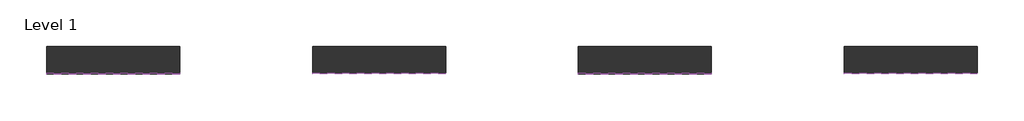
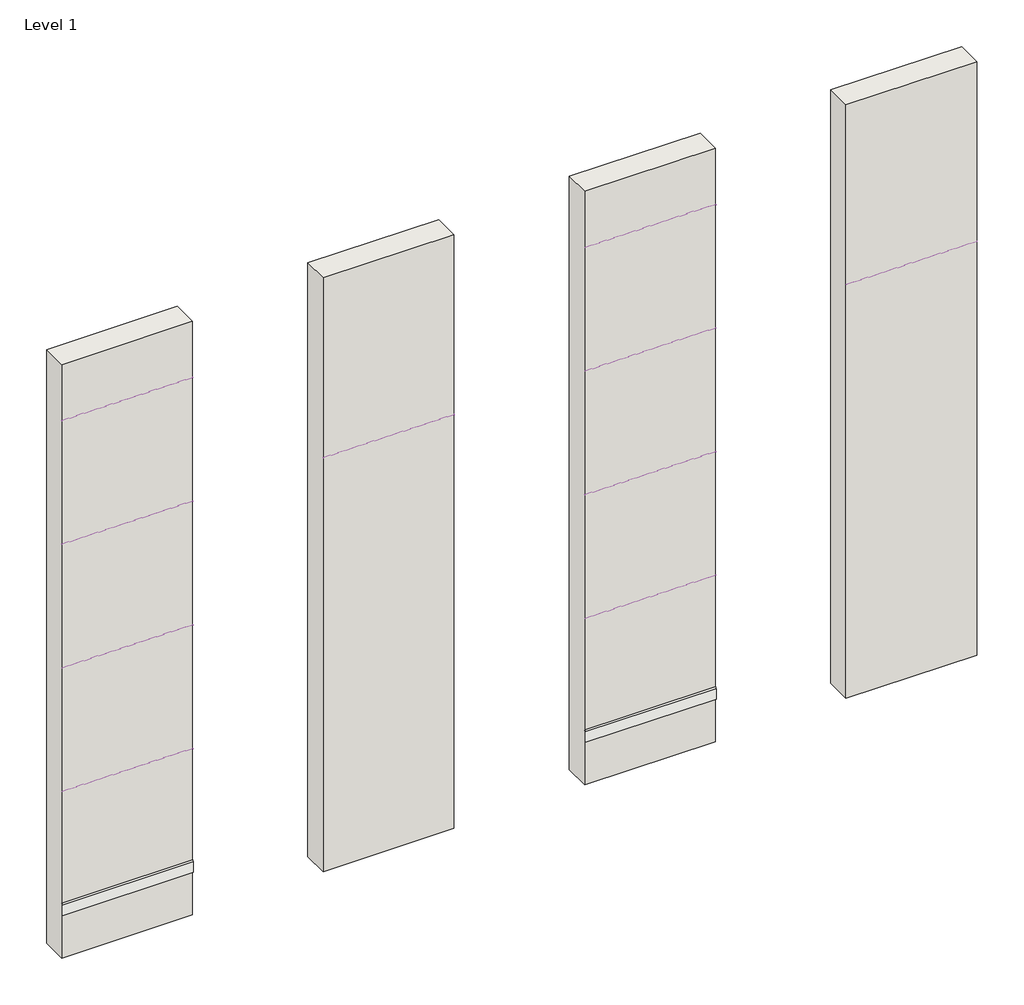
# One storey: 12 coverings, 4 walls.
"""IFC4 building model written with IfcOpenShell, lengths in millimetres."""

from ifc_helpers import new_model, si_unit, point, frame, frame_2d, origin, origin_with_axes, place, context, project, spatial, polyline, circle_curve, trimmed, segment, composite_curve, outline, extrude, element, save

model = new_model("IFC4")

# Units and contexts
model_context = context("Model", 3, world=origin())
ifc_project = project(units=[si_unit("LENGTHUNIT", "METRE", prefix="MILLI")], contexts=[model_context])

# Site, building, storey
site = spatial("IfcSite", under=ifc_project)
building = spatial("IfcBuilding", under=site)
storey = spatial("IfcBuildingStorey", under=building, Name="Level 1", Elevation=0.0)

# Coverings
placement = place(None, origin())
element("IfcCovering", 1, ObjectType="REVIGRES-LIMESTONE-RB-8x59.2-RECT-MIST", at=placement, inside=storey, context=model_context, shape_type="SweptSolid", body=[
    extrude(outline(composite_curve([segment(polyline([(-7003.9029573, 3350.0), (-7013.7029573, 3350.0), (-7013.7029573, 3420.2)]), True, "CONTINUOUS"), segment(trimmed(circle_curve(frame_2d((-7003.9029573, 3420.2)), 9.8), [point((-7013.7029573, 3420.2))], [point((-7003.9029573, 3430.0))], False, "CARTESIAN"), True, "CONTINUOUS"), segment(polyline([(-7003.9029573, 3430.0), (-7003.9029573, 3350.0)]), True, "CONTINUOUS")], self_intersect=False)), frame((5606.4744288, 0.0, 0.0), z_axis=(1.0, 0.0, 0.0), x_axis=(0.0, 1.0, 0.0)), (0.0, 0.0, 1.0), 1000.0),
])
element("IfcCovering", 2, ObjectType="REVIGRES-LIMESTONE-RB-8x88.9-RECT-MIST", at=placement, inside=storey, context=model_context, shape_type="SweptSolid", body=[
    extrude(outline(composite_curve([segment(polyline([(-7003.9029573, 2350.0), (-7014.4029573, 2350.0), (-7014.4029573, 2419.5)]), True, "CONTINUOUS"), segment(trimmed(circle_curve(frame_2d((-7003.9029573, 2419.5)), 10.5), [point((-7014.4029573, 2419.5))], [point((-7003.9029573, 2430.0))], False, "CARTESIAN"), True, "CONTINUOUS"), segment(polyline([(-7003.9029573, 2430.0), (-7003.9029573, 2350.0)]), True, "CONTINUOUS")], self_intersect=False)), frame((5606.4744288, 0.0, 0.0), z_axis=(1.0, 0.0, 0.0), x_axis=(0.0, 1.0, 0.0)), (0.0, 0.0, 1.0), 1000.0),
])
element("IfcCovering", 3, ObjectType="REVIGRES-LIMESTONE-RB-8x118.6-RECT-MIST", at=placement, inside=storey, context=model_context, shape_type="SweptSolid", body=[
    extrude(outline(composite_curve([segment(polyline([(-7003.9029573, 1350.0), (-7013.7029573, 1350.0), (-7013.7029573, 1420.2)]), True, "CONTINUOUS"), segment(trimmed(circle_curve(frame_2d((-7003.9029573, 1420.2)), 9.8), [point((-7013.7029573, 1420.2))], [point((-7003.9029573, 1430.0))], False, "CARTESIAN"), True, "CONTINUOUS"), segment(polyline([(-7003.9029573, 1430.0), (-7003.9029573, 1350.0)]), True, "CONTINUOUS")], self_intersect=False)), frame((5606.4744288, 0.0, 0.0), z_axis=(1.0, 0.0, 0.0), x_axis=(0.0, 1.0, 0.0)), (0.0, 0.0, 1.0), 1000.0),
])
element("IfcCovering", 4, ObjectType="REVIGRES-LIMESTONE-RB-9.5x29.5-RECT-MIST", at=placement, inside=storey, context=model_context, shape_type="SweptSolid", body=[
    extrude(outline(composite_curve([segment(polyline([(-7003.9029573, 350.0), (-7013.7029573, 350.0), (-7013.7029573, 435.2)]), True, "CONTINUOUS"), segment(trimmed(circle_curve(frame_2d((-7003.9029573, 435.2)), 9.8), [point((-7013.7029573, 435.2))], [point((-7003.9029573, 445.0))], False, "CARTESIAN"), True, "CONTINUOUS"), segment(polyline([(-7003.9029573, 445.0), (-7003.9029573, 350.0)]), True, "CONTINUOUS")], self_intersect=False)), frame((5606.4744288, 0.0, 0.0), z_axis=(1.0, 0.0, 0.0), x_axis=(0.0, 1.0, 0.0)), (0.0, 0.0, 1.0), 1000.0),
])
element("IfcCovering", 5, ObjectType="REVIGRES-LIMESTONE-RB-8x59.2-ANTISLIP RECT-MIST", at=placement, inside=storey, context=model_context, shape_type="SweptSolid", body=[
    extrude(outline(composite_curve([segment(polyline([(-7003.9029573, 3350.0), (-7013.7029573, 3350.0), (-7013.7029573, 3420.2)]), True, "CONTINUOUS"), segment(trimmed(circle_curve(frame_2d((-7003.9029573, 3420.2)), 9.8), [point((-7013.7029573, 3420.2))], [point((-7003.9029573, 3430.0))], False, "CARTESIAN"), True, "CONTINUOUS"), segment(polyline([(-7003.9029573, 3430.0), (-7003.9029573, 3350.0)]), True, "CONTINUOUS")], self_intersect=False)), frame((7606.4744288, 0.0, 0.0), z_axis=(1.0, 0.0, 0.0), x_axis=(0.0, 1.0, 0.0)), (0.0, 0.0, 1.0), 1000.0),
])
element("IfcCovering", 6, ObjectType="REVIGRES-LIMESTONE-RB-8x44.35-RECT-MIST", at=placement, inside=storey, context=model_context, shape_type="SweptSolid", body=[
    extrude(outline(composite_curve([segment(polyline([(-7003.9029573, 4350.0), (-7014.4029573, 4350.0), (-7014.4029573, 4419.5)]), True, "CONTINUOUS"), segment(trimmed(circle_curve(frame_2d((-7003.9029573, 4419.5)), 10.5), [point((-7014.4029573, 4419.5))], [point((-7003.9029573, 4430.0))], False, "CARTESIAN"), True, "CONTINUOUS"), segment(polyline([(-7003.9029573, 4430.0), (-7003.9029573, 4350.0)]), True, "CONTINUOUS")], self_intersect=False)), frame((5606.4744288, 0.0, 0.0), z_axis=(1.0, 0.0, 0.0), x_axis=(0.0, 1.0, 0.0)), (0.0, 0.0, 1.0), 1000.0),
])
element("IfcCovering", 7, ObjectType="REVIGRES-LIMESTONE-RB-8x59.2-RECT-SAND", at=placement, inside=storey, context=model_context, shape_type="SweptSolid", body=[
    extrude(outline(composite_curve([segment(polyline([(-7003.9029573, 3350.0), (-7013.7029573, 3350.0), (-7013.7029573, 3420.2)]), True, "CONTINUOUS"), segment(trimmed(circle_curve(frame_2d((-7003.9029573, 3420.2)), 9.8), [point((-7013.7029573, 3420.2))], [point((-7003.9029573, 3430.0))], False, "CARTESIAN"), True, "CONTINUOUS"), segment(polyline([(-7003.9029573, 3430.0), (-7003.9029573, 3350.0)]), True, "CONTINUOUS")], self_intersect=False)), frame((9606.4744288, 0.0, 0.0), z_axis=(1.0, 0.0, 0.0), x_axis=(0.0, 1.0, 0.0)), (0.0, 0.0, 1.0), 1000.0),
])
element("IfcCovering", 8, ObjectType="REVIGRES-LIMESTONE-RB-8x88.90-RECT-SAND", at=placement, inside=storey, context=model_context, shape_type="SweptSolid", body=[
    extrude(outline(composite_curve([segment(polyline([(-7003.9029573, 2350.0), (-7014.4029573, 2350.0), (-7014.4029573, 2419.5)]), True, "CONTINUOUS"), segment(trimmed(circle_curve(frame_2d((-7003.9029573, 2419.5)), 10.5), [point((-7014.4029573, 2419.5))], [point((-7003.9029573, 2430.0))], False, "CARTESIAN"), True, "CONTINUOUS"), segment(polyline([(-7003.9029573, 2430.0), (-7003.9029573, 2350.0)]), True, "CONTINUOUS")], self_intersect=False)), frame((9606.4744288, 0.0, 0.0), z_axis=(1.0, 0.0, 0.0), x_axis=(0.0, 1.0, 0.0)), (0.0, 0.0, 1.0), 1000.0),
])
element("IfcCovering", 9, ObjectType="REVIGRES-LIMESTONE-RB-8x118.6-RECT-SAND", at=placement, inside=storey, context=model_context, shape_type="SweptSolid", body=[
    extrude(outline(composite_curve([segment(polyline([(-7003.9029573, 1350.0), (-7013.7029573, 1350.0), (-7013.7029573, 1420.2)]), True, "CONTINUOUS"), segment(trimmed(circle_curve(frame_2d((-7003.9029573, 1420.2)), 9.8), [point((-7013.7029573, 1420.2))], [point((-7003.9029573, 1430.0))], False, "CARTESIAN"), True, "CONTINUOUS"), segment(polyline([(-7003.9029573, 1430.0), (-7003.9029573, 1350.0)]), True, "CONTINUOUS")], self_intersect=False)), frame((9606.4744288, 0.0, 0.0), z_axis=(1.0, 0.0, 0.0), x_axis=(0.0, 1.0, 0.0)), (0.0, 0.0, 1.0), 1000.0),
])
element("IfcCovering", 10, ObjectType="REVIGRES-LIMESTONE-RB-9.5x29.5-RECT-SAND", at=placement, inside=storey, context=model_context, shape_type="SweptSolid", body=[
    extrude(outline(composite_curve([segment(polyline([(-7003.9029573, 350.0), (-7013.7029573, 350.0), (-7013.7029573, 435.2)]), True, "CONTINUOUS"), segment(trimmed(circle_curve(frame_2d((-7003.9029573, 435.2)), 9.8), [point((-7013.7029573, 435.2))], [point((-7003.9029573, 445.0))], False, "CARTESIAN"), True, "CONTINUOUS"), segment(polyline([(-7003.9029573, 445.0), (-7003.9029573, 350.0)]), True, "CONTINUOUS")], self_intersect=False)), frame((9606.4744288, 0.0, 0.0), z_axis=(1.0, 0.0, 0.0), x_axis=(0.0, 1.0, 0.0)), (0.0, 0.0, 1.0), 1000.0),
])
element("IfcCovering", 11, ObjectType="REVIGRES-LIMESTONE-RB-8x44.35-RECT-SAND", at=placement, inside=storey, context=model_context, shape_type="SweptSolid", body=[
    extrude(outline(composite_curve([segment(polyline([(-7003.9029573, 4350.0), (-7014.4029573, 4350.0), (-7014.4029573, 4419.5)]), True, "CONTINUOUS"), segment(trimmed(circle_curve(frame_2d((-7003.9029573, 4419.5)), 10.5), [point((-7014.4029573, 4419.5))], [point((-7003.9029573, 4430.0))], False, "CARTESIAN"), True, "CONTINUOUS"), segment(polyline([(-7003.9029573, 4430.0), (-7003.9029573, 4350.0)]), True, "CONTINUOUS")], self_intersect=False)), frame((9606.4744288, 0.0, 0.0), z_axis=(1.0, 0.0, 0.0), x_axis=(0.0, 1.0, 0.0)), (0.0, 0.0, 1.0), 1000.0),
])
element("IfcCovering", 12, ObjectType="REVIGRES-LIMESTONE-RB-8x59.2-ANTISLIP RECT-SAND", at=placement, inside=storey, context=model_context, shape_type="SweptSolid", body=[
    extrude(outline(composite_curve([segment(polyline([(-7003.9029573, 3350.0), (-7013.7029573, 3350.0), (-7013.7029573, 3420.2)]), True, "CONTINUOUS"), segment(trimmed(circle_curve(frame_2d((-7003.9029573, 3420.2)), 9.8), [point((-7013.7029573, 3420.2))], [point((-7003.9029573, 3430.0))], False, "CARTESIAN"), True, "CONTINUOUS"), segment(polyline([(-7003.9029573, 3430.0), (-7003.9029573, 3350.0)]), True, "CONTINUOUS")], self_intersect=False)), frame((11606.4744288, 0.0, 0.0), z_axis=(1.0, 0.0, 0.0), x_axis=(0.0, 1.0, 0.0)), (0.0, 0.0, 1.0), 1000.0),
])

# Walls
element("IfcWall", 13, ObjectType="Wall 1", at=placement, inside=storey, context=model_context, shape_type="SweptSolid", body=[
    extrude(outline(polyline([(6606.4744288, -7003.9029573), (5606.4744288, -7003.9029573), (5606.4744288, -6803.9029573), (6606.4744288, -6803.9029573), (6606.4744288, -7003.9029573)])), origin_with_axes(), (0.0, 0.0, 1.0), 4800.0),
])
element("IfcWall", 14, ObjectType="Wall 1", at=placement, inside=storey, context=model_context, shape_type="SweptSolid", body=[
    extrude(outline(polyline([(8606.4744288, -7003.9029573), (7606.4744288, -7003.9029573), (7606.4744288, -6803.9029573), (8606.4744288, -6803.9029573), (8606.4744288, -7003.9029573)])), origin_with_axes(), (0.0, 0.0, 1.0), 4800.0),
])
element("IfcWall", 15, ObjectType="Wall 1", at=placement, inside=storey, context=model_context, shape_type="SweptSolid", body=[
    extrude(outline(polyline([(10606.4744288, -7003.9029573), (9606.4744288, -7003.9029573), (9606.4744288, -6803.9029573), (10606.4744288, -6803.9029573), (10606.4744288, -7003.9029573)])), origin_with_axes(), (0.0, 0.0, 1.0), 4800.0),
])
element("IfcWall", 16, ObjectType="Wall 1", at=placement, inside=storey, context=model_context, shape_type="SweptSolid", body=[
    extrude(outline(polyline([(12606.4744288, -7003.9029573), (11606.4744288, -7003.9029573), (11606.4744288, -6803.9029573), (12606.4744288, -6803.9029573), (12606.4744288, -7003.9029573)])), origin_with_axes(), (0.0, 0.0, 1.0), 4800.0),
])

save(model, "model.ifc")
